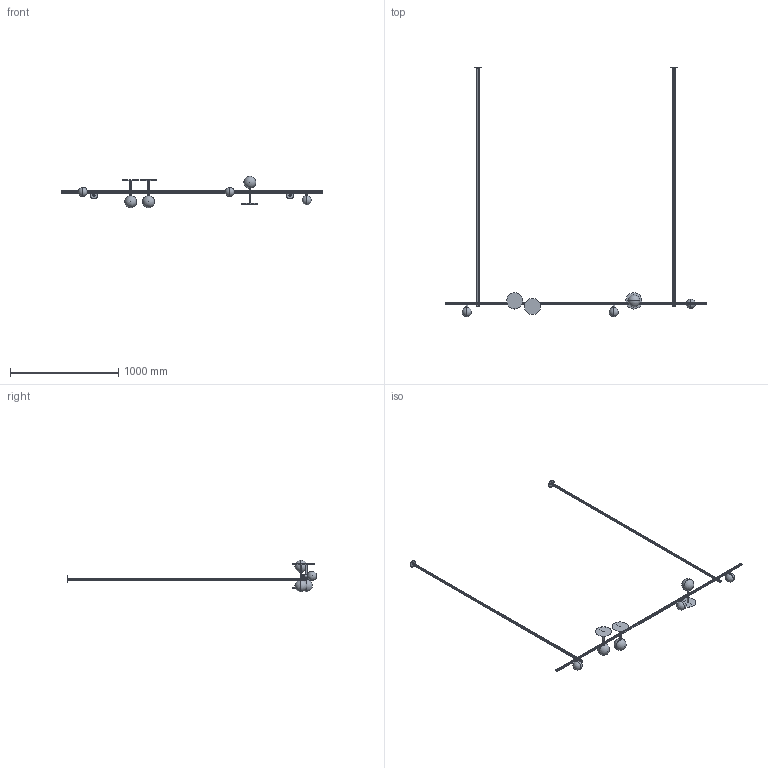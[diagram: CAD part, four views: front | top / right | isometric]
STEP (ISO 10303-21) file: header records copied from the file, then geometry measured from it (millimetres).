
FILE_DESCRIPTION (( 'STEP AP214' ), '1' );
FILE_NAME ('GANTRY B Lightweight.STEP', '2021-09-16T02:30:13', ( '' ), ( '' ), 'SwSTEP 2.0', 'SolidWorks 2017', '' );
FILE_SCHEMA (( 'AUTOMOTIVE_DESIGN' ));
Length unit declared in the file: millimetre
Products named in the file (1): GANTRY B Lightweight
Bounding box: 2410 x 2301.33 x 290.53 mm (x, y, z)
Volume: 1996075.2 mm3; surface area: 1691777.7 mm2
Topology: 44 solids, 44 shells, 657 faces, 1658 edges, 1064 vertices
Faces by surface type: cylinder 332, plane 219, cone 46, torus 36, sphere 24
Entity records: 28852 total; most frequent: CARTESIAN_POINT 5152, DIRECTION 3612, ORIENTED_EDGE 3172, EDGE_CURVE 1586, AXIS2_PLACEMENT_3D 1454, VERTEX_POINT 1028, CIRCLE 796, EDGE_LOOP 710
